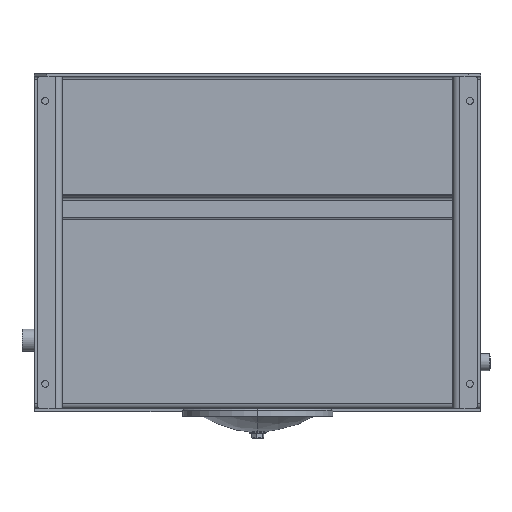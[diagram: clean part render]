
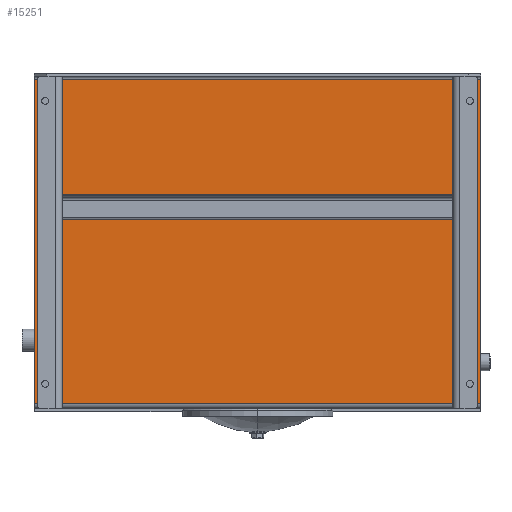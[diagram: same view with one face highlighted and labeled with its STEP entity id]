
A CAD part, front view. The second image highlights one B-rep face of the part: STEP entity #15251.
In plain terms, the highlighted planar face has unit normal (0, -1, 0).
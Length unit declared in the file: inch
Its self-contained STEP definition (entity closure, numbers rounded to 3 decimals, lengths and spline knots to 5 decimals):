
#48 = LINE ( 'NONE', #7766, #17688 ) ;
#280 = DIRECTION ( 'NONE',  ( 0., 0., -1. ) ) ;
#608 = EDGE_CURVE ( 'NONE', #14732, #15506, #13989, .T. ) ;
#1836 = EDGE_CURVE ( 'NONE', #14732, #19402, #18273, .T. ) ;
#2233 = VECTOR ( 'NONE', #4025, 39.37008 ) ;
#2804 = LINE ( 'NONE', #15928, #2233 ) ;
#3683 = EDGE_CURVE ( 'NONE', #21887, #19402, #48, .T. ) ;
#4025 = DIRECTION ( 'NONE',  ( 1., 0., 0. ) ) ;
#4261 = AXIS2_PLACEMENT_3D ( 'NONE', #7153, #10754, #280 ) ;
#4336 = VECTOR ( 'NONE', #15673, 39.37008 ) ;
#5820 = ORIENTED_EDGE ( 'NONE', *, *, #20328, .F. ) ;
#7153 = CARTESIAN_POINT ( 'NONE',  ( -24.5974, -8.06551, -8.5407 ) ) ;
#7197 = FACE_OUTER_BOUND ( 'NONE', #22206, .T. ) ;
#7766 = CARTESIAN_POINT ( 'NONE',  ( 11.4026, -8.06551, 18.4593 ) ) ;
#7792 = DIRECTION ( 'NONE',  ( 0., 0., -1. ) ) ;
#8090 = DIRECTION ( 'NONE',  ( 1., 0., 0. ) ) ;
#8530 = CARTESIAN_POINT ( 'NONE',  ( -24.5974, -8.06551, -8.1114 ) ) ;
#9276 = CARTESIAN_POINT ( 'NONE',  ( 11.4026, -8.06551, -8.1114 ) ) ;
#10754 = DIRECTION ( 'NONE',  ( 0., -1., 0. ) ) ;
#10931 = CARTESIAN_POINT ( 'NONE',  ( -24.5974, -8.06551, -8.1114 ) ) ;
#11126 = CARTESIAN_POINT ( 'NONE',  ( -24.5974, -8.06551, 18.03 ) ) ;
#12762 = CARTESIAN_POINT ( 'NONE',  ( 11.4026, -8.06551, 18.03 ) ) ;
#13906 = VECTOR ( 'NONE', #8090, 39.37008 ) ;
#13952 = ORIENTED_EDGE ( 'NONE', *, *, #3683, .F. ) ;
#13989 = LINE ( 'NONE', #16014, #4336 ) ;
#14732 = VERTEX_POINT ( 'NONE', #10931 ) ;
#15251 = ADVANCED_FACE ( 'NONE', ( #7197 ), #20804, .T. ) ;
#15506 = VERTEX_POINT ( 'NONE', #11126 ) ;
#15673 = DIRECTION ( 'NONE',  ( 0., 0., 1. ) ) ;
#15928 = CARTESIAN_POINT ( 'NONE',  ( -24.5974, -8.06551, 18.03 ) ) ;
#16014 = CARTESIAN_POINT ( 'NONE',  ( -24.5974, -8.06551, 18.4593 ) ) ;
#17144 = ORIENTED_EDGE ( 'NONE', *, *, #608, .F. ) ;
#17688 = VECTOR ( 'NONE', #7792, 39.37008 ) ;
#18273 = LINE ( 'NONE', #8530, #13906 ) ;
#19402 = VERTEX_POINT ( 'NONE', #9276 ) ;
#20328 = EDGE_CURVE ( 'NONE', #15506, #21887, #2804, .T. ) ;
#20804 = PLANE ( 'NONE',  #4261 ) ;
#21884 = ORIENTED_EDGE ( 'NONE', *, *, #1836, .T. ) ;
#21887 = VERTEX_POINT ( 'NONE', #12762 ) ;
#22206 = EDGE_LOOP ( 'NONE', ( #17144, #21884, #13952, #5820 ) ) ;
